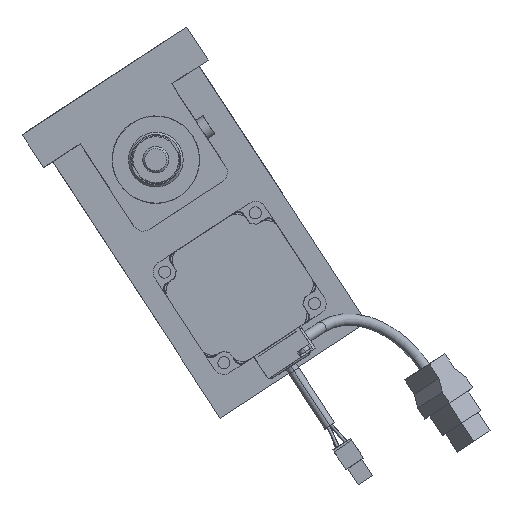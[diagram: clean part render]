
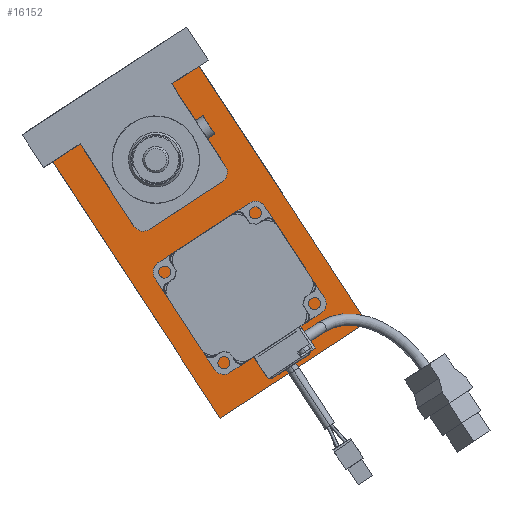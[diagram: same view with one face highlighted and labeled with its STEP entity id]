
A CAD part, front view. The second image highlights one B-rep face of the part: STEP entity #16152.
In plain terms, the highlighted planar face has unit normal (0, -1, 0) as drawn and (0, 0, 1) by its records, which use the part's own axes.
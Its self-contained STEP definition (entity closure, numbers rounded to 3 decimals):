
#36 = CARTESIAN_POINT ( 'NONE',  ( 40., -25., -20. ) ) ;
#318 = VERTEX_POINT ( 'NONE', #14974 ) ;
#355 = CARTESIAN_POINT ( 'NONE',  ( 40., 115., -20. ) ) ;
#561 = EDGE_CURVE ( 'NONE', #4339, #18872, #15307, .T. ) ;
#647 = CARTESIAN_POINT ( 'NONE',  ( -14.684, 70., -20. ) ) ;
#779 = EDGE_CURVE ( 'NONE', #16896, #12050, #16015, .T. ) ;
#1497 = CARTESIAN_POINT ( 'NONE',  ( -25., 25., -20. ) ) ;
#1699 = LINE ( 'NONE', #18507, #6775 ) ;
#1854 = CARTESIAN_POINT ( 'NONE',  ( -20., 25., -20. ) ) ;
#2140 = EDGE_CURVE ( 'NONE', #16806, #17457, #11390, .T. ) ;
#2239 = DIRECTION ( 'NONE',  ( 0., 0., 1. ) ) ;
#3527 = EDGE_CURVE ( 'NONE', #12550, #13916, #13036, .T. ) ;
#3749 = CARTESIAN_POINT ( 'NONE',  ( 0., -25., -20. ) ) ;
#3755 = CARTESIAN_POINT ( 'NONE',  ( 40., -40., -20. ) ) ;
#4154 = FACE_OUTER_BOUND ( 'NONE', #14010, .T. ) ;
#4339 = VERTEX_POINT ( 'NONE', #36 ) ;
#4525 = EDGE_CURVE ( 'NONE', #17457, #16806, #15280, .T. ) ;
#4533 = AXIS2_PLACEMENT_3D ( 'NONE', #8954, #19727, #14920 ) ;
#4534 = VERTEX_POINT ( 'NONE', #8463 ) ;
#4769 = LINE ( 'NONE', #3755, #12722 ) ;
#4886 = AXIS2_PLACEMENT_3D ( 'NONE', #16074, #2239, #5359 ) ;
#5062 = EDGE_CURVE ( 'NONE', #12043, #4534, #19135, .T. ) ;
#5151 = ORIENTED_EDGE ( 'NONE', *, *, #5062, .T. ) ;
#5307 = CIRCLE ( 'NONE', #8558, 5. ) ;
#5350 = FACE_BOUND ( 'NONE', #15618, .T. ) ;
#5355 = CARTESIAN_POINT ( 'NONE',  ( -20., 20., -20. ) ) ;
#5359 = DIRECTION ( 'NONE',  ( 1., 0., 0. ) ) ;
#5408 = DIRECTION ( 'NONE',  ( 1., 0., 0. ) ) ;
#6461 = EDGE_CURVE ( 'NONE', #7156, #16896, #1699, .T. ) ;
#6644 = VECTOR ( 'NONE', #7569, 1000. ) ;
#6764 = CARTESIAN_POINT ( 'NONE',  ( 0., 70., -20. ) ) ;
#6775 = VECTOR ( 'NONE', #7518, 1000. ) ;
#6833 = CARTESIAN_POINT ( 'NONE',  ( 25., 25., -20. ) ) ;
#7036 = DIRECTION ( 'NONE',  ( 0., 0., -1. ) ) ;
#7156 = VERTEX_POINT ( 'NONE', #17657 ) ;
#7393 = PLANE ( 'NONE',  #4533 ) ;
#7513 = ORIENTED_EDGE ( 'NONE', *, *, #19435, .T. ) ;
#7518 = DIRECTION ( 'NONE',  ( 0., 1., 0. ) ) ;
#7569 = DIRECTION ( 'NONE',  ( -1., 0., 0. ) ) ;
#7711 = EDGE_CURVE ( 'NONE', #12550, #7156, #19523, .T. ) ;
#8119 = ORIENTED_EDGE ( 'NONE', *, *, #561, .F. ) ;
#8463 = CARTESIAN_POINT ( 'NONE',  ( 20., 25., -20. ) ) ;
#8500 = CARTESIAN_POINT ( 'NONE',  ( 40., 115., -20. ) ) ;
#8558 = AXIS2_PLACEMENT_3D ( 'NONE', #18021, #13574, #19771 ) ;
#8954 = CARTESIAN_POINT ( 'NONE',  ( 0., 0., -20. ) ) ;
#9180 = VECTOR ( 'NONE', #19119, 1000. ) ;
#9907 = DIRECTION ( 'NONE',  ( 0., -1., 0. ) ) ;
#9954 = CARTESIAN_POINT ( 'NONE',  ( 14.684, 70., -20. ) ) ;
#10088 = DIRECTION ( 'NONE',  ( 0., 0., 1. ) ) ;
#10095 = CARTESIAN_POINT ( 'NONE',  ( -40., 115., -20. ) ) ;
#10330 = ORIENTED_EDGE ( 'NONE', *, *, #7711, .F. ) ;
#10784 = EDGE_CURVE ( 'NONE', #318, #18872, #17499, .T. ) ;
#11129 = VECTOR ( 'NONE', #15245, 1000. ) ;
#11284 = ORIENTED_EDGE ( 'NONE', *, *, #3527, .T. ) ;
#11390 = CIRCLE ( 'NONE', #14367, 14.684 ) ;
#11740 = EDGE_CURVE ( 'NONE', #12050, #4339, #4769, .T. ) ;
#11806 = DIRECTION ( 'NONE',  ( 0., -1., 0. ) ) ;
#12009 = ORIENTED_EDGE ( 'NONE', *, *, #10784, .T. ) ;
#12043 = VERTEX_POINT ( 'NONE', #1854 ) ;
#12050 = VERTEX_POINT ( 'NONE', #355 ) ;
#12550 = VERTEX_POINT ( 'NONE', #19019 ) ;
#12722 = VECTOR ( 'NONE', #9907, 1000. ) ;
#12885 = CARTESIAN_POINT ( 'NONE',  ( -25., 20., -20. ) ) ;
#12889 = ORIENTED_EDGE ( 'NONE', *, *, #2140, .F. ) ;
#12999 = AXIS2_PLACEMENT_3D ( 'NONE', #5355, #7036, #19309 ) ;
#13036 = LINE ( 'NONE', #1497, #11129 ) ;
#13224 = DIRECTION ( 'NONE',  ( 1., 0., 0. ) ) ;
#13574 = DIRECTION ( 'NONE',  ( 0., 0., -1. ) ) ;
#13916 = VERTEX_POINT ( 'NONE', #12885 ) ;
#14010 = EDGE_LOOP ( 'NONE', ( #8119, #19611, #17652, #19620, #10330, #11284, #7513, #5151, #18275, #12009 ) ) ;
#14367 = AXIS2_PLACEMENT_3D ( 'NONE', #6764, #10088, #5408 ) ;
#14544 = VECTOR ( 'NONE', #13224, 1000. ) ;
#14806 = VECTOR ( 'NONE', #19016, 1000. ) ;
#14825 = VECTOR ( 'NONE', #11806, 1000. ) ;
#14828 = ORIENTED_EDGE ( 'NONE', *, *, #4525, .F. ) ;
#14920 = DIRECTION ( 'NONE',  ( 1., 0., 0. ) ) ;
#14974 = CARTESIAN_POINT ( 'NONE',  ( 25., 20., -20. ) ) ;
#15245 = DIRECTION ( 'NONE',  ( 0., 1., 0. ) ) ;
#15280 = CIRCLE ( 'NONE', #4886, 14.684 ) ;
#15307 = LINE ( 'NONE', #16811, #6644 ) ;
#15618 = EDGE_LOOP ( 'NONE', ( #12889, #14828 ) ) ;
#16015 = LINE ( 'NONE', #8500, #14806 ) ;
#16074 = CARTESIAN_POINT ( 'NONE',  ( 0., 70., -20. ) ) ;
#16152 = ADVANCED_FACE ( 'NONE', ( #4154, #5350 ), #7393, .T. ) ;
#16806 = VERTEX_POINT ( 'NONE', #9954 ) ;
#16811 = CARTESIAN_POINT ( 'NONE',  ( 0., -25., -20. ) ) ;
#16896 = VERTEX_POINT ( 'NONE', #10095 ) ;
#16993 = CIRCLE ( 'NONE', #12999, 5. ) ;
#17033 = EDGE_CURVE ( 'NONE', #4534, #318, #5307, .T. ) ;
#17457 = VERTEX_POINT ( 'NONE', #647 ) ;
#17499 = LINE ( 'NONE', #17802, #14825 ) ;
#17652 = ORIENTED_EDGE ( 'NONE', *, *, #779, .F. ) ;
#17657 = CARTESIAN_POINT ( 'NONE',  ( -40., -25., -20. ) ) ;
#17802 = CARTESIAN_POINT ( 'NONE',  ( 25., -25., -20. ) ) ;
#18021 = CARTESIAN_POINT ( 'NONE',  ( 20., 20., -20. ) ) ;
#18275 = ORIENTED_EDGE ( 'NONE', *, *, #17033, .T. ) ;
#18507 = CARTESIAN_POINT ( 'NONE',  ( -40., -40., -20. ) ) ;
#18867 = CARTESIAN_POINT ( 'NONE',  ( 25., -25., -20. ) ) ;
#18872 = VERTEX_POINT ( 'NONE', #18867 ) ;
#19016 = DIRECTION ( 'NONE',  ( 1., 0., 0. ) ) ;
#19019 = CARTESIAN_POINT ( 'NONE',  ( -25., -25., -20. ) ) ;
#19119 = DIRECTION ( 'NONE',  ( -1., 0., 0. ) ) ;
#19135 = LINE ( 'NONE', #6833, #14544 ) ;
#19309 = DIRECTION ( 'NONE',  ( 1., 0., 0. ) ) ;
#19435 = EDGE_CURVE ( 'NONE', #13916, #12043, #16993, .T. ) ;
#19523 = LINE ( 'NONE', #3749, #9180 ) ;
#19611 = ORIENTED_EDGE ( 'NONE', *, *, #11740, .F. ) ;
#19620 = ORIENTED_EDGE ( 'NONE', *, *, #6461, .F. ) ;
#19727 = DIRECTION ( 'NONE',  ( 0., 0., 1. ) ) ;
#19771 = DIRECTION ( 'NONE',  ( 1., 0., 0. ) ) ;
